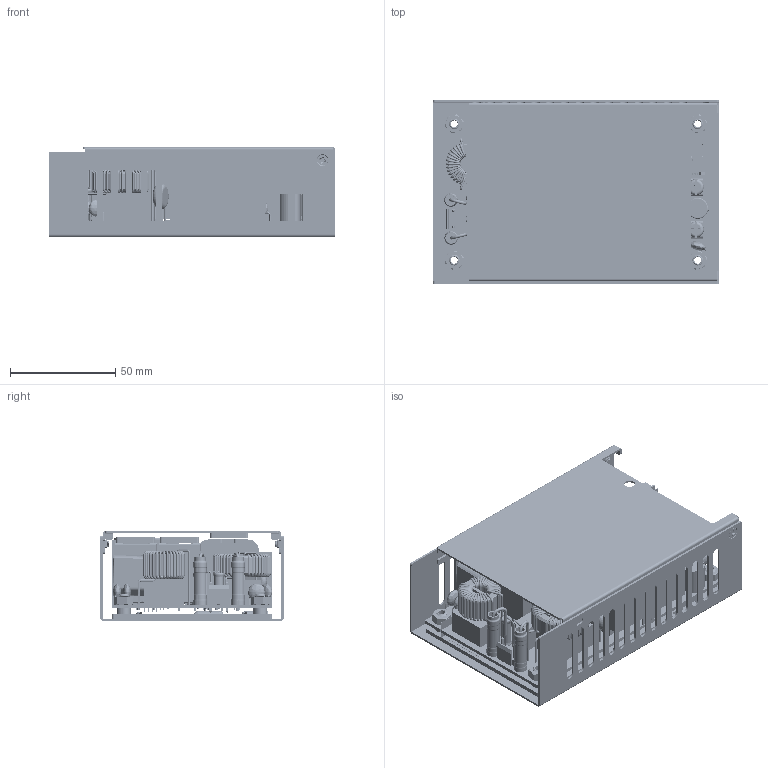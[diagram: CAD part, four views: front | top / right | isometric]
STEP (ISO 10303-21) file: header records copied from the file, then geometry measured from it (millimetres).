
FILE_DESCRIPTION (( 'STEP AP203' ), '1' );
FILE_NAME ('CFM500S(M)XXXC ¦¨«~¹Ï-1130723.STEP', '2024-07-29T03:54:04', ( 'cincon' ), ( '' ), 'SwSTEP 2.0', 'SolidWorks 2020', '' );
FILE_SCHEMA (( 'CONFIG_CONTROL_DESIGN' ));
Products named in the file (1): CFM500S(M)XXXC 成品圖-1130723
Bounding box: 136 x 87 x 42.5 mm (x, y, z)
Volume: 207976.9 mm3; surface area: 173540.5 mm2
Topology: 9 solids, 27 shells, 6038 faces, 16862 edges, 10698 vertices
Faces by surface type: plane 2399, cylinder 2104, torus 999, bspline 286, cone 246, sphere 4
Entity records: 234002 total; most frequent: CARTESIAN_POINT 78288, ORIENTED_EDGE 33648, DIRECTION 32800, EDGE_CURVE 16824, AXIS2_PLACEMENT_3D 12393, VERTEX_POINT 10698, VECTOR 8014, LINE 8014
